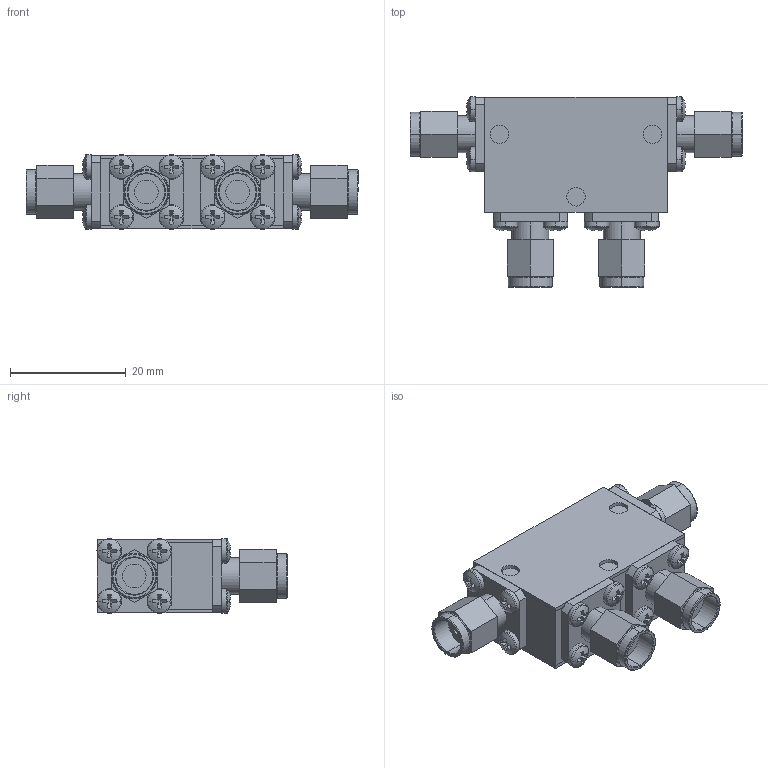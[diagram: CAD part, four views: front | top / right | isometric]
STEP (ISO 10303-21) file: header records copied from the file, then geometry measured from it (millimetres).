
FILE_DESCRIPTION (( 'STEP AP214' ), '1' );
FILE_NAME ('Package 15 Circ MMMM.step', '2021-12-01T20:58:18', ( '' ), ( '' ), 'SwSTEP 2.0', 'SolidWorks 2016', '' );
FILE_SCHEMA (( 'AUTOMOTIVE_DESIGN' ));
Length unit declared in the file: inch
Products named in the file (5): pan cross head_ai_CR-PHMS 0.086-56x0.125x0.125-N; Delta SMA-Male; Package Size 15; Package 15; Package 15 Circ MMMM
Assembly tree (22 placements, depth 2):
  Package 15 Circ MMMM
    Package 15
    pan cross head_ai_CR-PHMS 0.086-56x0.125x0.125-N  x16
    Delta SMA-Male  x4
    Package Size 15
Bounding box: 57.25 x 32.78 x 12.88 mm (x, y, z)
Volume: 10416 mm3; surface area: 10292 mm2
Topology: 22 solids, 22 shells, 584 faces, 1328 edges, 816 vertices
Faces by surface type: plane 340, cylinder 156, torus 56, sphere 32
Entity records: 3288 total; most frequent: DIRECTION 594, CARTESIAN_POINT 509, ORIENTED_EDGE 472, EDGE_CURVE 236, AXIS2_PLACEMENT_3D 235, VERTEX_POINT 150, EDGE_LOOP 124, LINE 124
